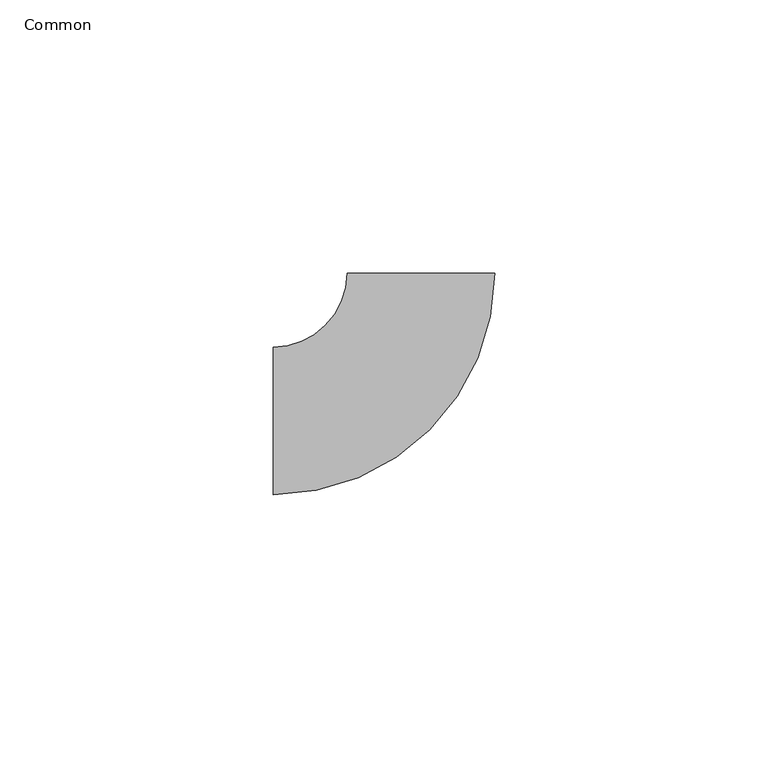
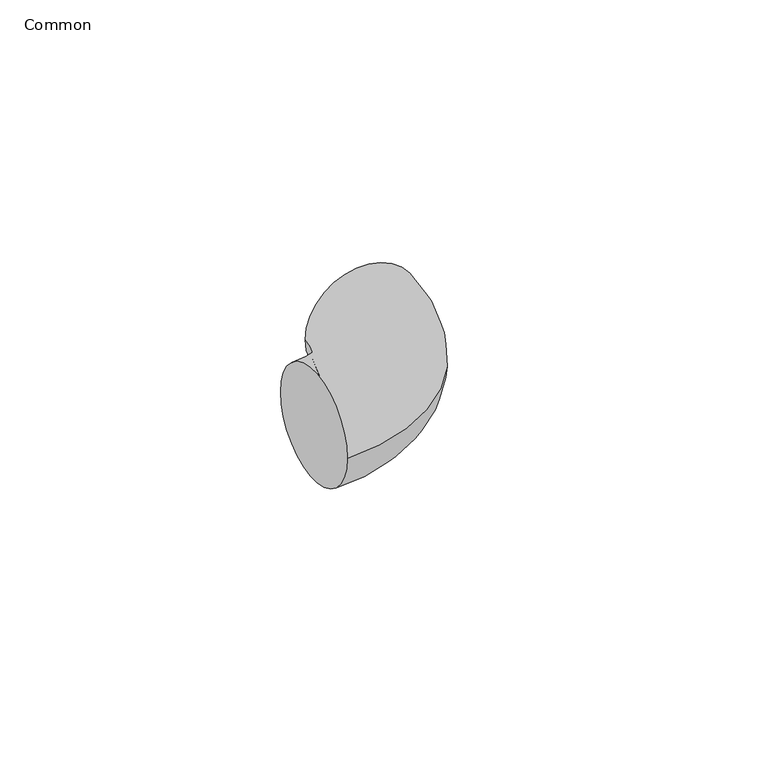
"""IFC4 building model written with IfcOpenShell, lengths in millimetres: pipe fitting geometry, 011_エルボ : Common."""

import ifcopenshell
import ifcopenshell.guid

model = None  # the IFC model being written
_history = None  # IfcOwnerHistory: only IFC2X3 demands one
_inside = {}  # id of a spatial element -> (the spatial element, [elements in it])
_under = {}  # id of a project, library or spatial element -> (it, [spatial elements below it])
_declared = {}  # id of a project -> (the project, [libraries it declares])
_typed = {}  # id of a type object -> (the type object, [elements of that type])
_made_of = {}  # id of a material, layer set ... -> (it, [elements and type objects made of it])


def new_model(schema):
    """Start an empty IFC model of exactly this schema.

    Asked for "IFC4X3", IfcOpenShell would pick the latest addendum, in which some entities
    have other attributes; the version numbers below select the first issue.
    IFC2X3 requires an IfcOwnerHistory on every rooted entity: one is made here for all.
    """
    global model, _history
    if schema == "IFC4X3":
        model = ifcopenshell.file(schema_version=(4, 3, 0, 0))
    else:
        model = ifcopenshell.file(schema=schema)
    _inside.clear()
    _under.clear()
    _declared.clear()
    _typed.clear()
    _made_of.clear()
    _history = None
    if model.schema == "IFC2X3":
        org = make("IfcOrganization", Name="unknown")
        user = make(
            "IfcPersonAndOrganization",
            ThePerson=make("IfcPerson", FamilyName="unknown"),
            TheOrganization=org,
        )
        app = make(
            "IfcApplication",
            ApplicationDeveloper=org,
            Version="unknown",
            ApplicationFullName="unknown",
            ApplicationIdentifier="unknown",
        )
        _history = make(
            "IfcOwnerHistory",
            OwningUser=user,
            OwningApplication=app,
            ChangeAction="ADDED",
            CreationDate=0,
        )
    return model


def make(cls, **values):
    """One entity of the class cls with the attributes given. An attribute that is None is left unset."""
    return model.create_entity(
        cls, **{name: value for name, value in values.items() if value is not None}
    )


def rooted(cls, **values):
    """An entity with a GlobalId (a new one), such as an element, a storey or a relation."""
    return make(cls, GlobalId=ifcopenshell.guid.new(), OwnerHistory=_history, **values)


def si_unit(unit_type, name, prefix=None):
    """IfcSIUnit, for example si_unit("LENGTHUNIT", "METRE", prefix="MILLI")."""
    return make("IfcSIUnit", UnitType=unit_type, Prefix=prefix, Name=name)


def assignment(units):
    """IfcUnitAssignment: the units of a project."""
    return None if units is None else make("IfcUnitAssignment", Units=units)


def point(xyz):
    """IfcCartesianPoint."""
    return None if xyz is None else make("IfcCartesianPoint", Coordinates=xyz)


def direction(xyz):
    """IfcDirection."""
    return None if xyz is None else make("IfcDirection", DirectionRatios=xyz)


def frame(location, z_axis=None, x_axis=None):
    """IfcAxis2Placement3D, a coordinate frame: its origin and axes. An axis left out is left unset."""
    return make(
        "IfcAxis2Placement3D",
        Location=point(location),
        Axis=direction(z_axis),
        RefDirection=direction(x_axis),
    )


def origin():
    """The frame at (0, 0, 0) with its axes left unset."""
    return frame((0.0, 0.0, 0.0))


def place(relative_to, where):
    """IfcLocalPlacement: puts the frame where relative to a parent placement (None: the world)."""
    return make(
        "IfcLocalPlacement", PlacementRelTo=relative_to, RelativePlacement=where
    )


def context(
    kind, dimensions, precision=None, world=None, true_north=None, identifier=None
):
    """IfcGeometricRepresentationContext, for example the 3D "Model" context."""
    return make(
        "IfcGeometricRepresentationContext",
        ContextIdentifier=identifier,
        ContextType=kind,
        CoordinateSpaceDimension=dimensions,
        Precision=precision,
        WorldCoordinateSystem=world,
        TrueNorth=true_north,
    )


def project(units=None, contexts=None):
    """IfcProject with its units and contexts."""
    return rooted(
        "IfcProject",
        Name="project",
        RepresentationContexts=contexts,
        UnitsInContext=assignment(units),
    )


def spatial(cls, under=None, at=None, **own):
    """A site, building, storey or space (cls), placed at a placement, below another one or the project."""
    s = rooted(cls, ObjectPlacement=at, **own)
    if under is not None:
        _under.setdefault(under.id(), (under, []))[1].append(s)
    return s


def circle_curve(where, radius):
    """IfcCircle in the frame where."""
    return make("IfcCircle", Position=where, Radius=radius)


def ellipse_curve(where, semi_axis1, semi_axis2):
    """IfcEllipse in the frame where."""
    return make(
        "IfcEllipse", Position=where, SemiAxis1=semi_axis1, SemiAxis2=semi_axis2
    )


def trimmed(basis, trim1, trim2, sense, master):
    """IfcTrimmedCurve: the piece of a basis curve between two trims."""
    return make(
        "IfcTrimmedCurve",
        BasisCurve=basis,
        Trim1=trim1,
        Trim2=trim2,
        SenseAgreement=sense,
        MasterRepresentation=master,
    )


def shape(context_of_items, identifier, shape_type, items):
    """IfcShapeRepresentation: the items that make up one representation, for example the "Body"."""
    return make(
        "IfcShapeRepresentation",
        ContextOfItems=context_of_items,
        RepresentationIdentifier=identifier,
        RepresentationType=shape_type,
        Items=items,
    )


def source(mapping_origin, context_of_items, identifier, shape_type, items):
    """IfcRepresentationMap: a shape defined once, which mapped items show again and again."""
    return make(
        "IfcRepresentationMap",
        MappingOrigin=mapping_origin,
        MappedRepresentation=shape(context_of_items, identifier, shape_type, items),
    )


def transform(
    local_origin,
    x_axis=None,
    y_axis=None,
    z_axis=None,
    scale=None,
    scale2=None,
    scale3=None,
    uniform=True,
):
    """IfcCartesianTransformationOperator3D, or its non-uniform kind. x_axis, y_axis, z_axis: its Axis1, 2, 3."""
    if uniform:
        return make(
            "IfcCartesianTransformationOperator3D",
            Axis1=direction(x_axis),
            Axis2=direction(y_axis),
            LocalOrigin=point(local_origin),
            Scale=scale,
            Axis3=direction(z_axis),
        )
    return make(
        "IfcCartesianTransformationOperator3DnonUniform",
        Axis1=direction(x_axis),
        Axis2=direction(y_axis),
        LocalOrigin=point(local_origin),
        Scale=scale,
        Axis3=direction(z_axis),
        Scale2=scale2,
        Scale3=scale3,
    )


def mapped(mapping_source, mapping_target):
    """IfcMappedItem: shows the shape of a source again, moved by a transform."""
    return make(
        "IfcMappedItem", MappingSource=mapping_source, MappingTarget=mapping_target
    )


def made_of(thing, what):
    """Note that an element or type object is made of a material, layer set ...; save() writes the relation."""
    if what is not None:
        _made_of.setdefault(what.id(), (what, []))[1].append(thing)
    return thing


def element(
    cls,
    number,
    at=None,
    inside=None,
    cuts=None,
    type_object=None,
    material=None,
    context=None,
    identifier="Body",
    shape_type=None,
    held_by="IfcProductDefinitionShape",
    body=None,
    shapes=None,
    **own,
):
    """One element of the class cls, such as IfcWall. Its Tag is "e" and its number.

    at: its placement. inside: the storey or other place that contains it. cuts: it is an
    opening in that element (IfcRelVoidsElement). A single representation is given by context,
    identifier, shape_type and body (its items); several are given by shapes. held_by: the class
    of the entity that holds the representations. save() writes the other relations.
    """
    e = rooted(cls, Tag="e%d" % number, ObjectPlacement=at, **own)
    if body is not None:
        shapes = [shape(context, identifier, shape_type, body)]
    if shapes is not None:
        e.Representation = make(held_by, Representations=shapes)
    if inside is not None:
        _inside.setdefault(inside.id(), (inside, []))[1].append(e)
    if cuts is not None:
        rooted(
            "IfcRelVoidsElement", RelatingBuildingElement=cuts, RelatedOpeningElement=e
        )
    if type_object is not None:
        _typed.setdefault(type_object.id(), (type_object, []))[1].append(e)
    return made_of(e, material)


def aggregate(whole, parts):
    """IfcRelAggregates: a whole, such as a stair, and the parts it consists of."""
    return rooted("IfcRelAggregates", RelatingObject=whole, RelatedObjects=parts)


def save(model, path):
    """Write the relations noted so far, then the file.

    IfcRelAggregates (storeys below a building ...), IfcRelContainedInSpatialStructure (elements
    in a storey), IfcRelDefinesByType, IfcRelAssociatesMaterial and IfcRelDeclares: one each for
    every whole, place, type object, material and project.
    """
    for whole, parts in _under.values():
        aggregate(whole, parts)
    for where, things in _inside.values():
        rooted(
            "IfcRelContainedInSpatialStructure",
            RelatedElements=things,
            RelatingStructure=where,
        )
    for kind, things in _typed.values():
        rooted("IfcRelDefinesByType", RelatedObjects=things, RelatingType=kind)
    for what, things in _made_of.values():
        rooted("IfcRelAssociatesMaterial", RelatedObjects=things, RelatingMaterial=what)
    for by, libraries in _declared.values():
        rooted("IfcRelDeclares", RelatingContext=by, RelatedDefinitions=libraries)
    model.write(path)


def plane_surface(at):
    """IfcPlane: the flat surface through the origin of the frame at, square to its z axis."""
    return make("IfcPlane", Position=at)


def revolved_surface(curve, axis_point, axis_direction):
    """IfcSurfaceOfRevolution: the curve turned about the line through axis_point along axis_direction."""
    return make(
        "IfcSurfaceOfRevolution",
        SweptCurve=make("IfcArbitraryOpenProfileDef", ProfileType="CURVE", Curve=curve),
        AxisPosition=make("IfcAxis1Placement", Location=point(axis_point), Axis=direction(axis_direction)),
    )


def advanced_brep(points, edges, surfaces, faces):
    """IfcAdvancedBrep: a solid bounded by faces that lie on surfaces and meet in shared edges.

    An edge is (start, end): straight between two places in points (the first is 0);
    or (start, end, curve); or (start, end, curve, False) where it runs against its curve.
    A face is (place in surfaces, loops), or (place, loops, False) where it looks against
    its surface's normal. A loop lists edges by number (the first is 1), with a minus sign
    where the edge is run from its end to its start. The first loop is the outer one.
    """
    corners = [point(p) for p in points]
    vertices = [make("IfcVertexPoint", VertexGeometry=c) for c in corners]
    made = []
    for start, end, *more in edges:
        made.append(
            make(
                "IfcEdgeCurve",
                EdgeStart=vertices[start],
                EdgeEnd=vertices[end],
                EdgeGeometry=more[0] if more else make("IfcPolyline", Points=[corners[start], corners[end]]),
                SameSense=more[1] if len(more) > 1 else True,
            )
        )
    hull = []
    for where, loops, *sense in faces:
        bounds = []
        for j, loop in enumerate(loops):
            ring = [make("IfcOrientedEdge", EdgeElement=made[abs(k) - 1], Orientation=k > 0) for k in loop]
            bounds.append(
                make(
                    "IfcFaceOuterBound" if j == 0 else "IfcFaceBound",
                    Bound=make("IfcEdgeLoop", EdgeList=ring),
                    Orientation=True,
                )
            )
        hull.append(make("IfcAdvancedFace", Bounds=bounds, FaceSurface=surfaces[where], SameSense=sense[0] if sense else True))
    return make("IfcAdvancedBrep", Outer=make("IfcClosedShell", CfsFaces=hull))


def common_bebf707b(model_context):
    return source(origin(), model_context, "Body", "AdvancedBrep", [
        advanced_brep(
        [(-27.0, -13.5, 0.0), (-27.0, 13.5, 0.0), (13.5, 27.0, 0.0), (-13.5, 27.0, 0.0)],
        [
            (0, 1, circle_curve(frame((-27.0, 0.0, 0.0), z_axis=(-1.0, 0.0, 0.0), x_axis=(0.0, 1.0, 0.0)), 13.5)),
            (1, 0, circle_curve(frame((-27.0, 0.0, 0.0), z_axis=(-1.0, 0.0, 0.0), x_axis=(0.0, 1.0, 0.0)), 13.5)),
            (2, 3, circle_curve(frame((0.0, 27.0, 0.0), z_axis=(0.0, 1.0, 0.0), x_axis=(-1.0, 0.0, 0.0)), 13.5)),
            (3, 2, circle_curve(frame((0.0, 27.0, 0.0), z_axis=(0.0, 1.0, 0.0), x_axis=(-1.0, 0.0, 0.0)), 13.5)),
            (3, 1, circle_curve(frame((-27.0, 27.0, 0.0), z_axis=(0.0, 0.0, -1.0), x_axis=(0.0, -1.0, 0.0)), 13.5)),
            (0, 2, circle_curve(frame((-27.0, 27.0, 0.0), z_axis=(0.0, 0.0, 1.0), x_axis=(0.0, -1.0, 0.0)), 40.5)),
        ],
        [
            plane_surface(frame((-27.0, 0.0, 0.0), z_axis=(-1.0, 0.0, 0.0), x_axis=(0.0, 0.0, 1.0))),
            plane_surface(frame((0.0, 27.0, 0.0), z_axis=(0.0, 1.0, 0.0), x_axis=(0.0, 0.0, 1.0))),
            revolved_surface(trimmed(ellipse_curve(frame((-27.0, 0.0, 0.0), z_axis=(-1.0, 0.0, 0.0), x_axis=(0.0, 1.0, 0.0)), 13.5, 13.5), [point((-27.0, -13.5, 0.0))], [point((-27.0, 13.5, 0.0))], True, "CARTESIAN"), (-27.0, 27.0, 0.0), (0.0, 0.0, 1.0)),
            revolved_surface(trimmed(ellipse_curve(frame((-27.0, 0.0, 0.0), z_axis=(-1.0, 0.0, 0.0), x_axis=(0.0, 1.0, 0.0)), 13.5, 13.5), [point((-27.0, 13.5, 0.0))], [point((-27.0, -13.5, 0.0))], True, "CARTESIAN"), (-27.0, 27.0, 0.0), (0.0, 0.0, 1.0)),
        ],
        [
            (0, [[1, 2]]),
            (1, [[3, 4]]),
            (2, [[5, -1, 6, -4]]),
            (3, [[-6, -2, -5, -3]]),
        ],
    ),
    ])


if __name__ == "__main__":
    model = new_model("IFC4")
    model_context = context("Model", 3, world=origin())
    ifc_project = project(units=[si_unit("LENGTHUNIT", "METRE", prefix="MILLI")], contexts=[model_context])
    site = spatial("IfcSite", under=ifc_project)
    building = spatial("IfcBuilding", under=site)
    placement = place(None, origin())
    common_shape = common_bebf707b(model_context)
    element("IfcPipeFitting", 1, ObjectType="011_エルボ : Common", at=placement, inside=building, context=model_context, shape_type="MappedRepresentation", body=[
        mapped(common_shape, transform((0.0, 0.0, 0.0), x_axis=(1.0, 0.0, 0.0), y_axis=(0.0, 1.0, 0.0), z_axis=(0.0, 0.0, 1.0))),
    ])
    save(model, "model.ifc")
